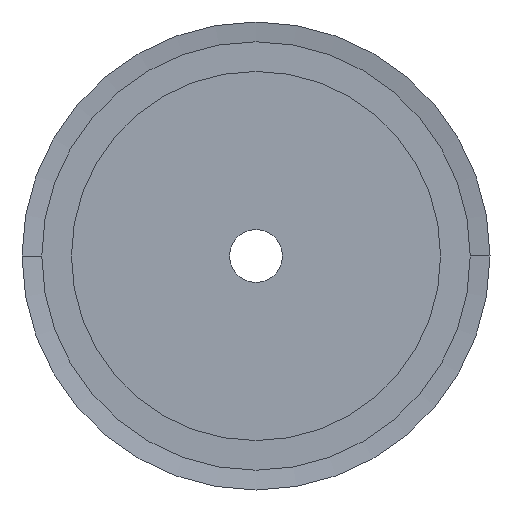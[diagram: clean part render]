
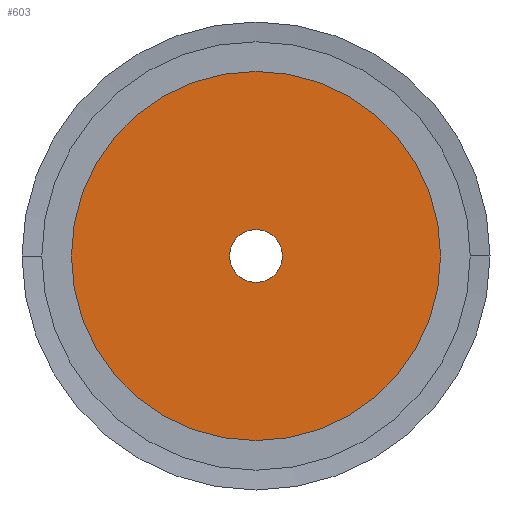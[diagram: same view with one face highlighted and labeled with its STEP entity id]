
A CAD part, left-side view. The second image highlights one B-rep face of the part: STEP entity #603.
In plain terms, the highlighted planar face has unit normal (-1, 0, 0).
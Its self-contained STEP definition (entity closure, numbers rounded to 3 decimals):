
#603 = ADVANCED_FACE( '', ( #1665, #1666 ), #1667, .T. );
#1665 = FACE_BOUND( '', #2728, .T. );
#1666 = FACE_OUTER_BOUND( '', #2729, .T. );
#1667 = PLANE( '', #2730 );
#2728 = EDGE_LOOP( '', ( #7103, #7104 ) );
#2729 = EDGE_LOOP( '', ( #7105, #7106 ) );
#2730 = AXIS2_PLACEMENT_3D( '', #7107, #7108, #7109 );
#7103 = ORIENTED_EDGE( '', *, *, #7233, .T. );
#7104 = ORIENTED_EDGE( '', *, *, #7229, .T. );
#7105 = ORIENTED_EDGE( '', *, *, #7113, .T. );
#7106 = ORIENTED_EDGE( '', *, *, #8505, .T. );
#7107 = CARTESIAN_POINT( '', ( 0., 14., 0. ) );
#7108 = DIRECTION( '', ( -1., 0., 0. ) );
#7109 = DIRECTION( '', ( 0., 1., 0. ) );
#7113 = EDGE_CURVE( '', #8507, #8511, #8513, .T. );
#7229 = EDGE_CURVE( '', #8739, #8736, #8740, .T. );
#7233 = EDGE_CURVE( '', #8736, #8739, #8745, .T. );
#8505 = EDGE_CURVE( '', #8511, #8507, #10773, .T. );
#8507 = VERTEX_POINT( '', #10775 );
#8511 = VERTEX_POINT( '', #10780 );
#8513 = CIRCLE( '', #10783, 28. );
#8736 = VERTEX_POINT( '', #11022 );
#8739 = VERTEX_POINT( '', #11026 );
#8740 = CIRCLE( '', #11027, 4. );
#8745 = CIRCLE( '', #11033, 4. );
#10773 = CIRCLE( '', #13817, 28. );
#10775 = CARTESIAN_POINT( '', ( 0., 28., 0. ) );
#10780 = CARTESIAN_POINT( '', ( 0., -28., 0. ) );
#10783 = AXIS2_PLACEMENT_3D( '', #13823, #13824, #13825 );
#11022 = CARTESIAN_POINT( '', ( 0., 4., 0. ) );
#11026 = CARTESIAN_POINT( '', ( 0., -4., 0. ) );
#11027 = AXIS2_PLACEMENT_3D( '', #14137, #14138, #14139 );
#11033 = AXIS2_PLACEMENT_3D( '', #14147, #14148, #14149 );
#13817 = AXIS2_PLACEMENT_3D( '', #16451, #16452, #16453 );
#13823 = CARTESIAN_POINT( '', ( 0., 0., 0. ) );
#13824 = DIRECTION( '', ( -1., 0., 0. ) );
#13825 = DIRECTION( '', ( 0., 1., 0. ) );
#14137 = CARTESIAN_POINT( '', ( 0., 0., 0. ) );
#14138 = DIRECTION( '', ( 1., 0., 0. ) );
#14139 = DIRECTION( '', ( 0., 1., 0. ) );
#14147 = CARTESIAN_POINT( '', ( 0., 0., 0. ) );
#14148 = DIRECTION( '', ( 1., 0., 0. ) );
#14149 = DIRECTION( '', ( 0., 1., 0. ) );
#16451 = CARTESIAN_POINT( '', ( 0., 0., 0. ) );
#16452 = DIRECTION( '', ( -1., 0., 0. ) );
#16453 = DIRECTION( '', ( 0., 1., 0. ) );
